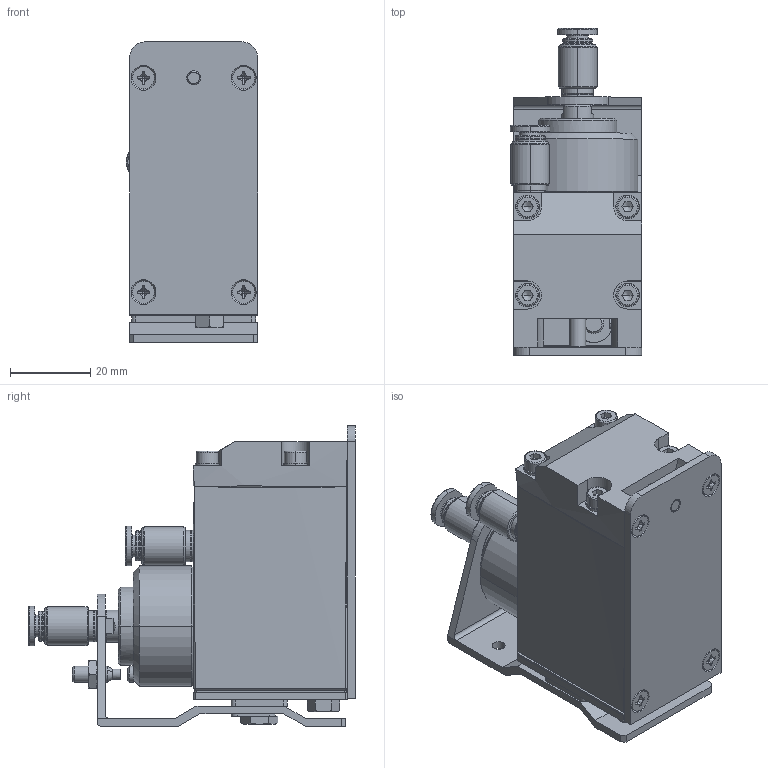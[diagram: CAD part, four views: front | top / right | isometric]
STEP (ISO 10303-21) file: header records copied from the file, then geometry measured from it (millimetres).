
FILE_DESCRIPTION (( 'STEP AP214' ), '1' );
FILE_NAME ('GT-NT05-4.STEP', '2019-11-27T08:41:10', ( '微软用户' ), ( '微软中国' ), 'SwSTEP 2.0', 'SolidWorks 2016', '' );
FILE_SCHEMA (( 'AUTOMOTIVE_DESIGN' ));
Length unit declared in the file: millimetre
Products named in the file (1): GT-NT05-4
Bounding box: 32.8 x 81.6 x 75 mm (x, y, z)
Surface area: 33517.4 mm2 (no closed solid volume)
Topology: 0 solids, 42 shells, 1064 faces, 2623 edges, 1656 vertices
Faces by surface type: plane 466, cylinder 279, bspline 219, cone 68, torus 32
Entity records: 47980 total; most frequent: CARTESIAN_POINT 19050, ORIENTED_EDGE 5106, DIRECTION 4202, EDGE_CURVE 2587, VERTEX_POINT 1656, AXIS2_PLACEMENT_3D 1576, EDGE_LOOP 1199, FACE_OUTER_BOUND 1064
